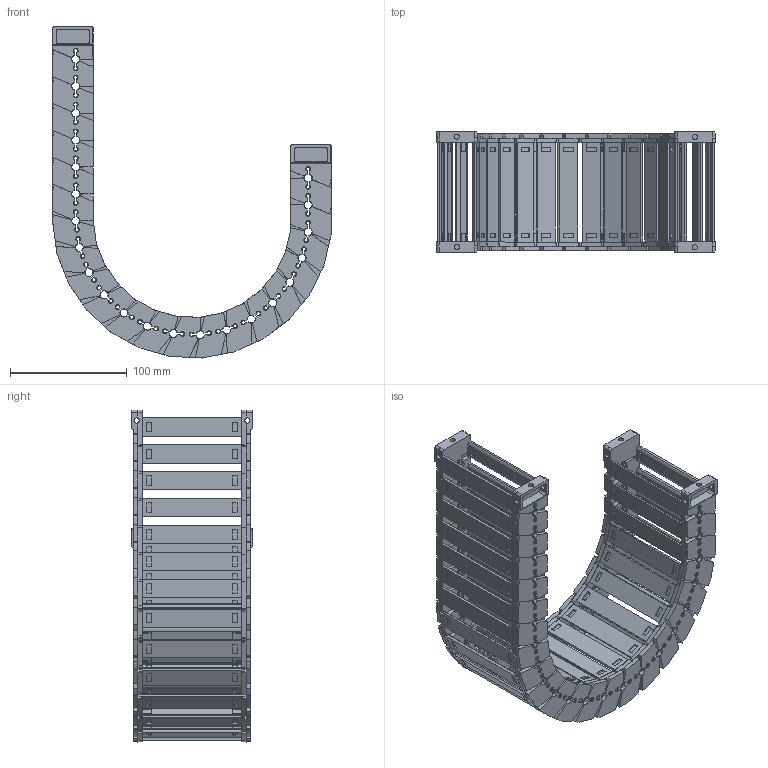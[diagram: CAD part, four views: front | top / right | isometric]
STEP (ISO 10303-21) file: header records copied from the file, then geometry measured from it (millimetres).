
FILE_DESCRIPTION((''),'2;1');
FILE_NAME('JY-28X77-R100_ASM','2025-07-23T11:37:52',('admin'),(''),'CREO PARAMETRIC BY PTC INC, 2021023','CREO PARAMETRIC BY PTC INC, 2021023','');
FILE_SCHEMA(('CONFIG_CONTROL_DESIGN','GEOMETRIC_VALIDATION_PROPERTIES_MIM'));
Length unit declared in the file: millimetre
Products named in the file (12): 28XL-L_1; 25-35XL-YP_1; 28XL-R_1; ASM0001_ASM_1_ASM; 28-LTT-A-L_1; 28-LTT-A-R_1; 28XL-LTT-A_ASM_1_ASM; 28-LTT-B-L_1; 28-LTT-B-R_1; 28XL-LTT-B_ASM_1_ASM; JY-28X77-R100_ASM_1_ASM; JY-28X77-R100_ASM
Assembly tree (36 placements, depth 4):
  JY-28X77-R100_ASM
    JY-28X77-R100_ASM_1_ASM
      ASM0001_ASM_1_ASM  x21
        28XL-L_1
        25-35XL-YP_1
        28XL-R_1
      28XL-LTT-A_ASM_1_ASM
        28-LTT-A-L_1
        25-35XL-YP_1  x2
        28-LTT-A-R_1
      28XL-LTT-B_ASM_1_ASM
        28-LTT-B-L_1
        25-35XL-YP_1  x2
        28-LTT-B-R_1
Bounding box: 238.21 x 103.4 x 283.78 mm (x, y, z)
Volume: 423333.7 mm3; surface area: 305106.7 mm2
Topology: 92 solids, 92 shells, 5382 faces, 17080 edges, 11790 vertices
Faces by surface type: plane 3255, cone 1163, cylinder 866, bspline 96, extrusion 2
Entity records: 28597 total; most frequent: CARTESIAN_POINT 6427, ORIENTED_EDGE 3540, DIRECTION 3069, PRESENTATION_STYLE_ASSIGNMENT 1795, STYLED_ITEM 1777, CURVE_STYLE 1770, EDGE_CURVE 1770, VERTEX_POINT 1210
